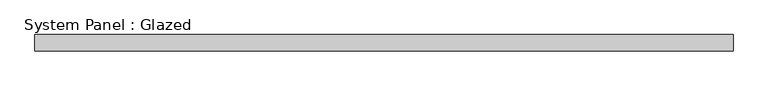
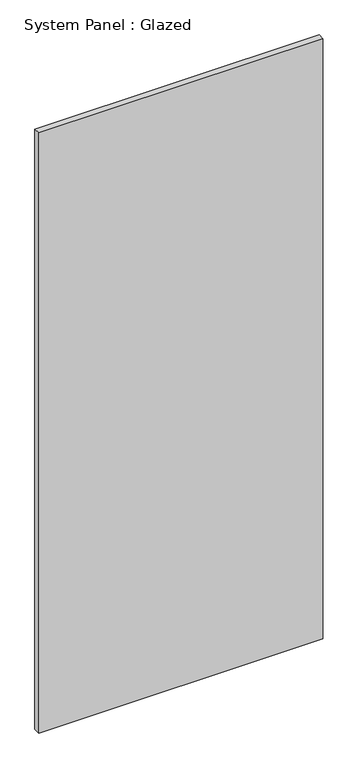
"""IFC4 building model written with IfcOpenShell, lengths in millimetres: plate geometry, System Panel : Glazed."""

from ifc_helpers import new_model, si_unit, origin, origin_with_axes, place, context, project, spatial, polyline, outline, extrude, source, transform, mapped, element, save


def system_panel_glazed_64632876(model_context):
    return source(origin(), model_context, "Body", "SweptSolid", [
        extrude(outline(polyline([(537.4999999, 24.5), (-537.4999999, 24.5), (-537.4999999, 49.5), (537.4999999, 49.5), (537.4999999, 24.5)])), origin_with_axes(), (0.0, 0.0, 1.0), 2400.0),
    ])


if __name__ == "__main__":
    model = new_model("IFC4")
    model_context = context("Model", 3, world=origin())
    ifc_project = project(units=[si_unit("LENGTHUNIT", "METRE", prefix="MILLI")], contexts=[model_context])
    site = spatial("IfcSite", under=ifc_project)
    building = spatial("IfcBuilding", under=site)
    placement = place(None, origin())
    system_panel_glazed_shape = system_panel_glazed_64632876(model_context)
    element("IfcPlate", 1, ObjectType="System Panel : Glazed", at=placement, inside=building, context=model_context, shape_type="MappedRepresentation", body=[
        mapped(system_panel_glazed_shape, transform((0.0, 0.0, 0.0), x_axis=(1.0, 0.0, 0.0), y_axis=(0.0, 1.0, 0.0), z_axis=(0.0, 0.0, 1.0))),
    ])
    save(model, "model.ifc")
